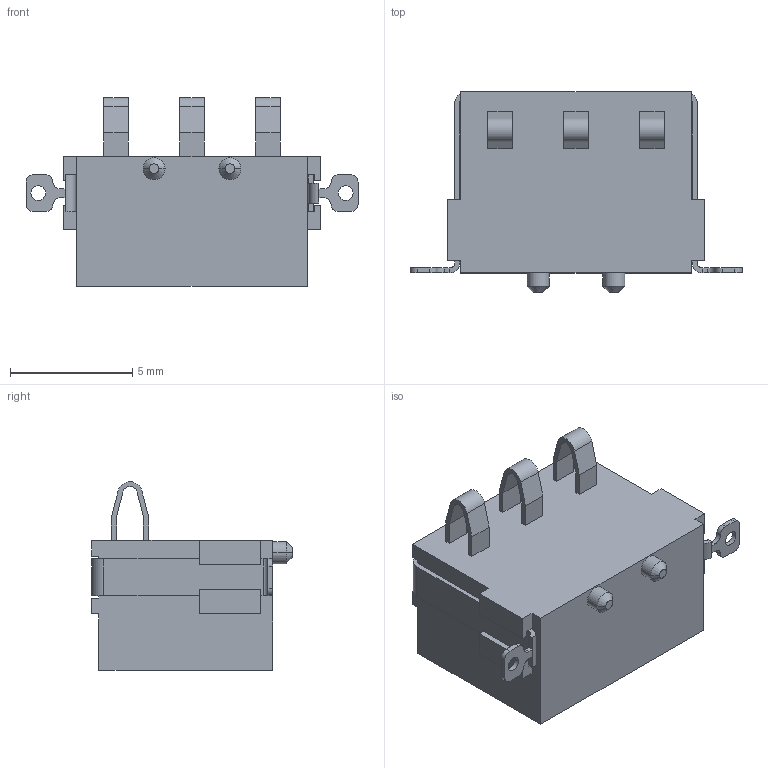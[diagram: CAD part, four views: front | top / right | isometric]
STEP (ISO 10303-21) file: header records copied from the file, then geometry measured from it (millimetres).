
FILE_DESCRIPTION((''),'2;1');
FILE_NAME('BATT-CONN-OCTEK-03JAX_PRT','2008-06-30T',('GRA'),(''),'PRO/ENGINEER BY PARAMETRIC TECHNOLOGY CORPORATION, 2006170','PRO/ENGINEER BY PARAMETRIC TECHNOLOGY CORPORATION, 2006170','');
FILE_SCHEMA(('CONFIG_CONTROL_DESIGN'));
Length unit declared in the file: millimetre
Products named in the file (1): BATT-CONN-OCTEK-03JAX_PRT
Bounding box: 13.55 x 8.2 x 7.7 mm (x, y, z)
Volume: 373.9 mm3; surface area: 465.6 mm2
Topology: 1 solids, 1 shells, 148 faces, 448 edges, 296 vertices
Faces by surface type: plane 108, cylinder 36, cone 4
Entity records: 5100 total; most frequent: CARTESIAN_POINT 962, ORIENTED_EDGE 896, DIRECTION 804, EDGE_CURVE 448, VECTOR 356, LINE 356, VERTEX_POINT 296, AXIS2_PLACEMENT_3D 224
